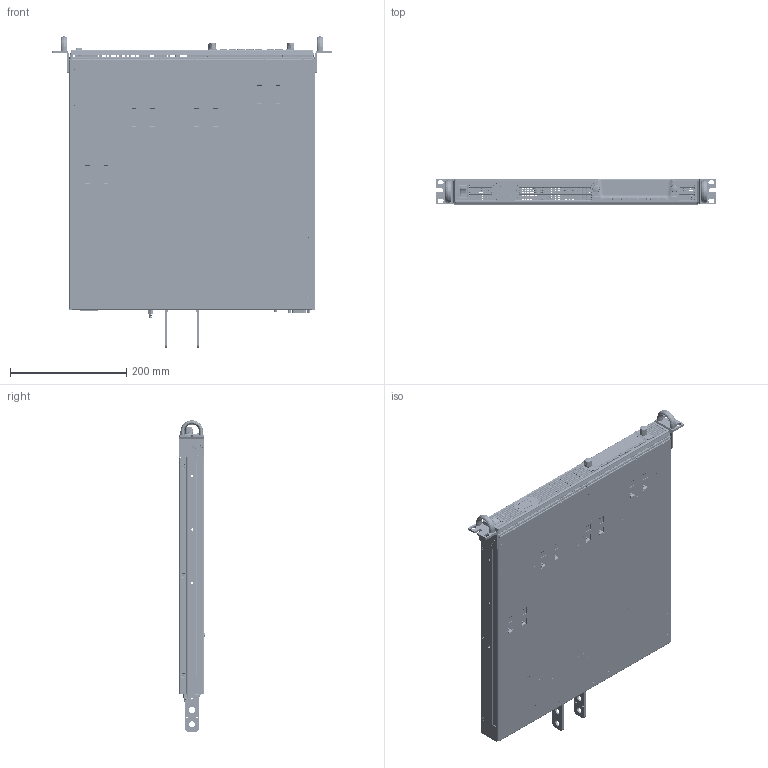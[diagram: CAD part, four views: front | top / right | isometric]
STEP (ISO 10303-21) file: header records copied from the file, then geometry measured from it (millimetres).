
FILE_DESCRIPTION (( 'STEP AP203' ), '1' );
FILE_NAME ('GEN+ 3PH LV 2 HOLES BUS BARS.STEP', '2017-03-22T12:16:13', ( 'Roman' ), ( 'Microsoft' ), 'SwSTEP 2.0', 'SolidWorks 2016', '' );
FILE_SCHEMA (( 'CONFIG_CONTROL_DESIGN' ));
Length unit declared in the file: millimetre
Products named in the file (76): Arcolectric H8550VB Rocker Switch Terminal; RIGHT CORNER ASSEMBLY; 30843-007-REV A_SLOT; IA787-32-05-00; HEX M4 (HEIGHT 2.2mm); IA761-33-17; IA761-32-02-01_CONFIG 1; 95540-2881; pc_5-4-g-7.62; Rocker Switch - Arcolectric H8550VB; FL-HEAD3x8-Lock; Winstar WD00329-SLL-#00_segments; IA787-51-01_HIGH CURRENT; PL-WAS-M4; IA787-31-07_REV.X1; IA761-32-02-00_CONFIG 1; 2069552-1; IA761-32-01-01; IA765 PCB; 30843-002_REV H; DSB-1048GE; IA772 DISPLAY ASSY_Light; IA761-51-04; GR-WASHER 4; SPT-THR-1.5-3-H-3.5_P26; IA761-32-38; 2013595 assy; IA33-33; IA765-50-01_for power supply assembly; IA772 FRONT PANEL ASSY; GEN+ 3PH  LV 2 HOLES BUS BARS; IA772-33-02; IA761-32-11; IA761-51-01; IA787-50-01; PN-HEAD3x6; SKRTLA; self-clinching nut_pmm_PEM CLS-M3-0 ---S; IA765-51-01_for power supply assembly; IA761-51-02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
Assembly tree (165 placements, depth 7):
  GEN+ 3PH  LV 2 HOLES BUS BARS
    IA761-51-04
      IA761-51-03_FAN   ASSEMBLY
        IA761-51-02
          IA761-51-01
            IA761-32-01-00
              IA761-32-01-01
              IA33-33  x34
              self-clinching nut_pmm_PEM CLS-M3-0 ---S  x6
              SS-1032-2 ZI  x6
              flush stud_pmm_PEM FHS-M4-15 ---S
              SSC-4mm-12  x2
            IA761-32-02-00_CONFIG 1
              IA761-32-02-01_CONFIG 1
            IA761-32-38
            SEMS-M3x6-  x2
              PN-HEAD3x6
              GR-WASHER3-
              PL--WAS-M3
            serrated lock washer 1_din_DIN 6798-J4.3
            HEX M4 (HEIGHT 2.2mm)  x2
            PL-WAS-M4
            GR-WASHER 4
          IA772 FRONT PANEL ASSY
            IA772 DISPLAY ASSY_Light
              DISPLAY PCB_Rev. X1
              EC11E18344
              LED SMD GREEN 0603  x5
              TACT SWITCH  x6
              30843-007-REV A_SLOT
              Winstar WD00329-SLL-#00_segments
            IA772-33-02
            IA761-33-23
            30843-005-REV D  x2
            Rocker Switch - Arcolectric H8550VB
              Arcolectric H8550VB Rocker Switch Housing
              Arcolectric H8550VB Rocker Switch Rocker
              Arcolectric H8550VB Rocker Switch Terminal  x4
            30843-002_REV H
        FL-HEAD3x6-Lock  x2
      IA761-32-37_DEFAULT
      IA761-32-49 
      FL-HEAD3x6-Lock  x8
      IA765-51-01_for power supply assembly
        IA765-50-01_for power supply assembly
          pc_5-4-g-7.62
          IA765 PCB
      IA770 ASSY_Light
        IA770-50-01
          IA770 PCB_WITH LAN
          USBR-B-S-X-O-TH-R
          26-31024KB91-1 
          5952X010XXF  x2
          95540-2881  x2
          2013595 assy  x2
            2069552-1
          SKRTLA
          WR-DSUB
      IA761-33-16
      IA761-33-17
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Bounding box: 482 x 44.21 x 535.71 mm (x, y, z)
Volume: 766059.2 mm3; surface area: 1210270 mm2
Topology: 562 solids, 616 shells, 27569 faces, 72681 edges, 46486 vertices
Faces by surface type: plane 15521, cylinder 5965, cone 3799, bspline 1717, torus 486, sphere 81
Entity records: 752051 total; most frequent: CARTESIAN_POINT 214289, ORIENTED_EDGE 114328, DIRECTION 101628, EDGE_CURVE 57775, VECTOR 41140, LINE 41140, VERTEX_POINT 37710, AXIS2_PLACEMENT_3D 30244
